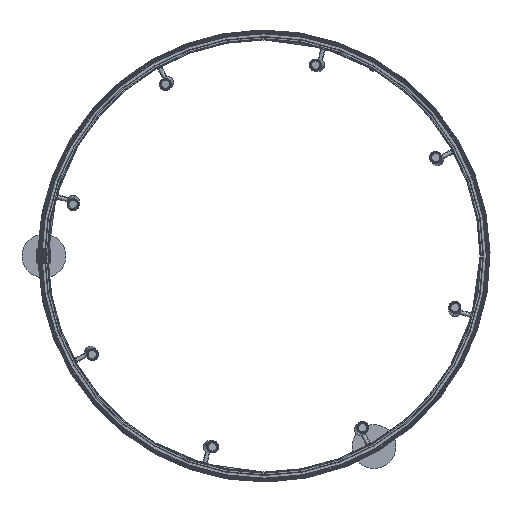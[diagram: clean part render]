
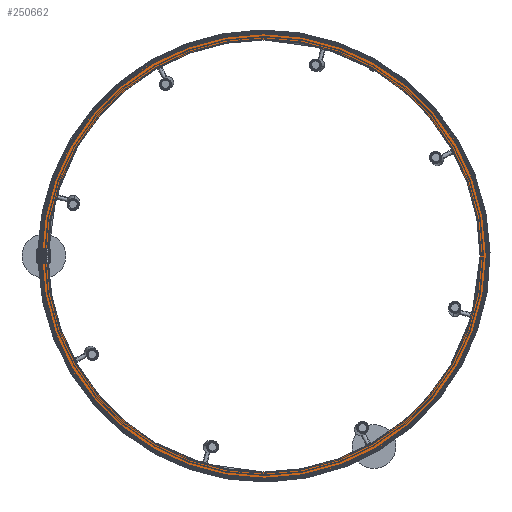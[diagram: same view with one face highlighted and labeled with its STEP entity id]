
A CAD part, left-side view. The second image highlights one B-rep face of the part: STEP entity #250662.
In plain terms, the highlighted planar face has unit normal (-1, 0, 0).
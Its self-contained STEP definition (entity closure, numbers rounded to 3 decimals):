
#14296 = DIRECTION ( 'NONE',  ( -1., 0., 0. ) ) ;
#20921 = ORIENTED_EDGE ( 'NONE', *, *, #164912, .T. ) ;
#27305 = VERTEX_POINT ( 'NONE', #250729 ) ;
#27820 = ORIENTED_EDGE ( 'NONE', *, *, #295575, .T. ) ;
#48056 = CARTESIAN_POINT ( 'NONE',  ( -15., -443.7, 0. ) ) ;
#52157 = ORIENTED_EDGE ( 'NONE', *, *, #208608, .F. ) ;
#52538 = EDGE_LOOP ( 'NONE', ( #52157, #266885 ) ) ;
#55179 = CIRCLE ( 'NONE', #272095, 444. ) ;
#56558 = DIRECTION ( 'NONE',  ( 0., 0., -1. ) ) ;
#60198 = DIRECTION ( 'NONE',  ( 0., 0., 1. ) ) ;
#63092 = CIRCLE ( 'NONE', #143806, 444. ) ;
#83788 = CARTESIAN_POINT ( 'NONE',  ( -15., -443.7, -444. ) ) ;
#92814 = CIRCLE ( 'NONE', #294628, 463.295 ) ;
#109135 = FACE_BOUND ( 'NONE', #290762, .T. ) ;
#113305 = VERTEX_POINT ( 'NONE', #168170 ) ;
#120754 = DIRECTION ( 'NONE',  ( 1., 0., 0. ) ) ;
#123953 = EDGE_CURVE ( 'NONE', #113305, #207956, #162255, .T. ) ;
#125443 = DIRECTION ( 'NONE',  ( 0., 0., -1. ) ) ;
#126995 = CARTESIAN_POINT ( 'NONE',  ( -15., -443.7, 0. ) ) ;
#128184 = CARTESIAN_POINT ( 'NONE',  ( -15., 19.595, 0. ) ) ;
#132820 = FACE_OUTER_BOUND ( 'NONE', #52538, .T. ) ;
#143806 = AXIS2_PLACEMENT_3D ( 'NONE', #48056, #120754, #215575 ) ;
#154489 = DIRECTION ( 'NONE',  ( 1., 0., 0. ) ) ;
#162255 = CIRCLE ( 'NONE', #202441, 463.295 ) ;
#163519 = VERTEX_POINT ( 'NONE', #83788 ) ;
#164912 = EDGE_CURVE ( 'NONE', #163519, #27305, #55179, .T. ) ;
#168170 = CARTESIAN_POINT ( 'NONE',  ( -15., -443.7, 463.295 ) ) ;
#175264 = DIRECTION ( 'NONE',  ( 0., 0., -1. ) ) ;
#180271 = PLANE ( 'NONE',  #186965 ) ;
#186965 = AXIS2_PLACEMENT_3D ( 'NONE', #128184, #14296, #60198 ) ;
#198978 = DIRECTION ( 'NONE',  ( 1., 0., 0. ) ) ;
#202441 = AXIS2_PLACEMENT_3D ( 'NONE', #249272, #154489, #56558 ) ;
#204315 = DIRECTION ( 'NONE',  ( 1., 0., 0. ) ) ;
#207956 = VERTEX_POINT ( 'NONE', #228789 ) ;
#208608 = EDGE_CURVE ( 'NONE', #207956, #113305, #92814, .T. ) ;
#215575 = DIRECTION ( 'NONE',  ( 0., 0., -1. ) ) ;
#228789 = CARTESIAN_POINT ( 'NONE',  ( -15., -443.7, -463.295 ) ) ;
#246325 = CARTESIAN_POINT ( 'NONE',  ( -15., -443.7, 0. ) ) ;
#249272 = CARTESIAN_POINT ( 'NONE',  ( -15., -443.7, 0. ) ) ;
#250662 = ADVANCED_FACE ( 'NONE', ( #109135, #132820 ), #180271, .T. ) ;
#250729 = CARTESIAN_POINT ( 'NONE',  ( -15., -443.7, 444. ) ) ;
#266885 = ORIENTED_EDGE ( 'NONE', *, *, #123953, .F. ) ;
#272095 = AXIS2_PLACEMENT_3D ( 'NONE', #126995, #204315, #125443 ) ;
#290762 = EDGE_LOOP ( 'NONE', ( #20921, #27820 ) ) ;
#294628 = AXIS2_PLACEMENT_3D ( 'NONE', #246325, #198978, #175264 ) ;
#295575 = EDGE_CURVE ( 'NONE', #27305, #163519, #63092, .T. ) ;
